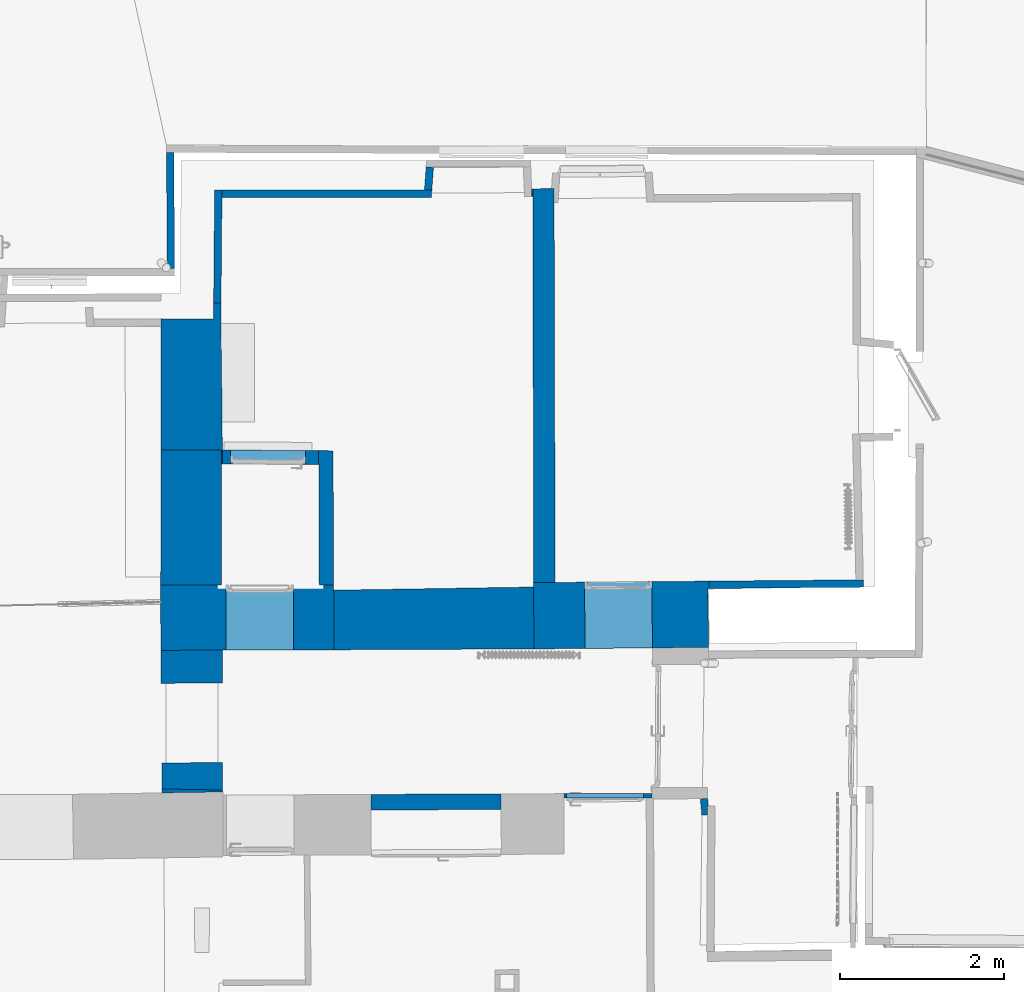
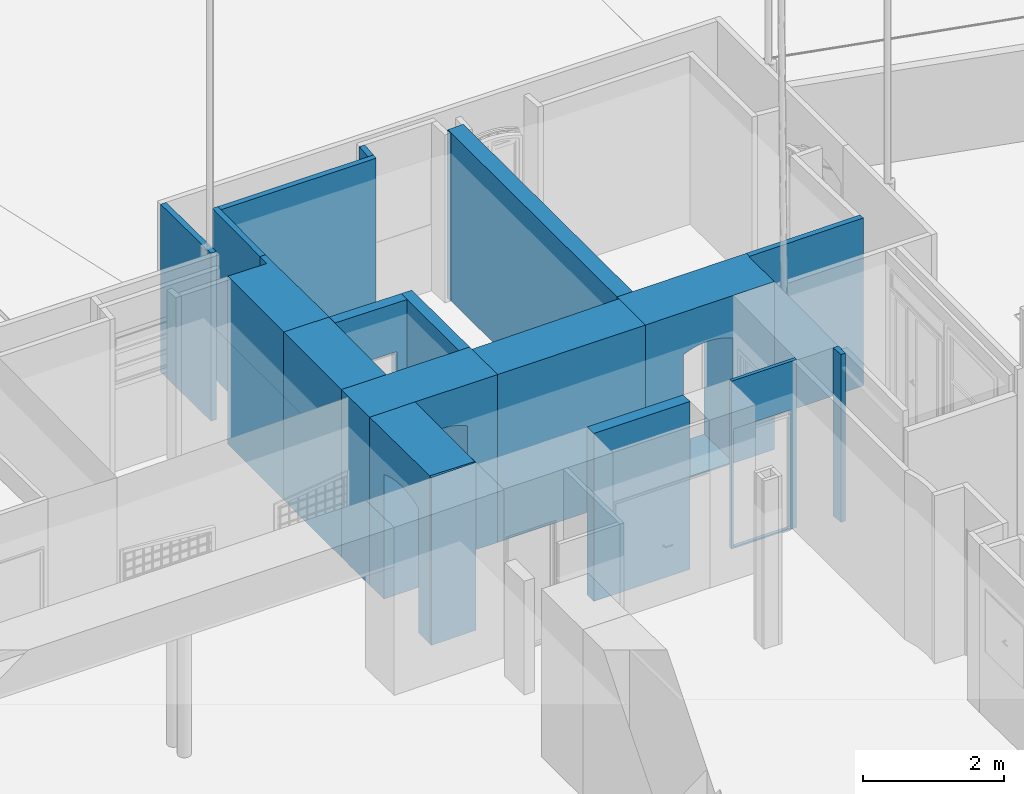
# One storey, part 28 of 133: 19 walls, 5 openings.
"""IFC2X3 building model written with IfcOpenShell, lengths in centimetres."""

from ifc_helpers import new_model, entity, si_unit, converted_unit, point, direction, frame, frame_2d, origin, origin_with_axes, place, context, subcontext, project, spatial, polyline, circle_curve, trimmed, segment, composite_curve, outline, extrude, shape, material, layer, layer_set, layer_usage, type_object, element, save


model = new_model("IFC2X3")

# Units and contexts
model_context = context("Model", 3, precision=0.0001, world=origin(), true_north=direction((0.225632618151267, 0.974212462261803, 0.0)))
body_context = subcontext(model_context, "Body", "Model", "MODEL_VIEW")
footprint_context = subcontext(model_context, "FootPrint", "Model", "MODEL_VIEW")
profile_context = subcontext(model_context, "Profile", "Model", "MODEL_VIEW")
ifc_project = project(units=[si_unit("LENGTHUNIT", "METRE", prefix="CENTI"), si_unit("AREAUNIT", "SQUARE_METRE", prefix="CENTI"), si_unit("VOLUMEUNIT", "CUBIC_METRE", prefix="CENTI"), converted_unit("PLANEANGLEUNIT", "DEGREE", entity("IfcRatioMeasure", 0.0174532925), si_unit("PLANEANGLEUNIT", "RADIAN"), dimensions=[0, 0, 0, 0, 0, 0, 0])], contexts=[model_context])

# Site, building, storey
site_placement = place(None, origin_with_axes())
site = spatial("IfcSite", under=ifc_project, at=site_placement, Name="Default Site", CompositionType="ELEMENT")
building_placement = place(site_placement, origin_with_axes())
building = spatial("IfcBuilding", under=site, at=building_placement, Name="Default Building", CompositionType="ELEMENT")
storey_placement = place(building_placement, frame((0.0, 0.0, -291.400371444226), z_axis=(0.0, 0.0, 1.0), x_axis=(1.0, 0.0, 0.0)))
storey = spatial("IfcBuildingStorey", under=building, at=storey_placement, Name="Rez-de-Jardin", CompositionType="ELEMENT", Elevation=-291.400371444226)

# Walls
ifc_material = material(Name="<aucun>")
ifc_layer_1 = layer(ifc_material, 26.0)
ifc_layer_set_1 = layer_set([ifc_layer_1], Name="default")
ifc_layer_usage_1 = layer_usage(ifc_layer_set_1, "AXIS2", "POSITIVE", -13.0)
wall_type_1 = type_object("IfcWallType", Name="default 260", PredefinedType="NOTDEFINED", material=ifc_layer_set_1)
wall_1_placement = place(storey_placement, frame((697.253894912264, 230.501718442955, -1.94511073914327e-11), z_axis=(0.0, 0.0, 1.0), x_axis=(-0.00247484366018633, 0.99999693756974, 0.0)))
element("IfcWallStandardCase", 1, at=wall_1_placement, inside=storey, type_object=wall_type_1, material=ifc_layer_usage_1, Name="Enveloppe 57016", context=body_context, shape_type="SweptSolid", body=[
    extrude(outline(polyline([(484.37706935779, 12.9999999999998), (5.44558083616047, 13.0000000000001), (5.60077992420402, -12.9999999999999), (485.040371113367, -13.0000000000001), (485.239297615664, -9.89141458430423), (484.37706935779, 12.9999999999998)])), frame((0.0, 0.0, 1.33226762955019e-13), z_axis=(0.0, 0.0, 1.0), x_axis=(1.0, 0.0, 0.0)), (0.0, 0.0, 1.0), 291.413221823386),
])
ifc_layer_2 = layer(ifc_material, 9.0)
ifc_layer_set_2 = layer_set([ifc_layer_2], Name="default")
ifc_layer_usage_2 = layer_usage(ifc_layer_set_2, "AXIS2", "POSITIVE", -4.5)
wall_type_2 = type_object("IfcWallType", Name="default 90", PredefinedType="NOTDEFINED", material=ifc_layer_set_2)
wall_2_placement = place(storey_placement, frame((672.846193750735, 709.931671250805, -1.94511073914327e-11), z_axis=(0.0, 0.0, 1.0), x_axis=(0.999195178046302, 0.0401122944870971, 0.0)))
element("IfcWallStandardCase", 2, at=wall_2_placement, inside=storey, type_object=wall_type_2, material=ifc_layer_usage_2, Name="Enveloppe 2023371", context=body_context, shape_type="SweptSolid", body=[
    extrude(outline(polyline([(9.00000000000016, 4.49999999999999), (9.00000000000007, -4.4999999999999), (10.0588631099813, -4.49999999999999), (10.397857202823, 4.49999999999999), (9.00000000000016, 4.49999999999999)])), frame((0.0, 0.0, 1.33226762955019e-13), z_axis=(0.0, 0.0, 1.0), x_axis=(1.0, 0.0, 0.0)), (0.0, 0.0, 1.0), 291.413221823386),
])
ifc_layer_usage_3 = layer_usage(ifc_layer_set_2, "AXIS2", "POSITIVE", -4.5)
wall_3_placement = place(storey_placement, frame((893.212596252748, -46.8542375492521, -1.94511073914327e-11), z_axis=(0.0, 0.0, 1.0), x_axis=(-0.0903162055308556, 0.995913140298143, 0.0)))
element("IfcWallStandardCase", 3, at=wall_3_placement, inside=storey, type_object=wall_type_2, material=ifc_layer_usage_3, Name="Enveloppe 596726", context=body_context, shape_type="SweptSolid", body=[
    extrude(outline(polyline([(19.9999999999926, 4.49999999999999), (0.0, 4.50000000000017), (4.44089209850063e-14, -2.56225293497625), (10.3697661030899, -3.56695212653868), (10.3697661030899, -4.49999999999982), (19.9999999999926, -4.49999999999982), (19.9999999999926, 4.49999999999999)])), frame((0.0, 0.0, 8.88178419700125e-14), z_axis=(0.0, 0.0, 1.0), x_axis=(1.0, 0.0, 0.0)), (0.0, 0.0, 1.0), 291.413221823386),
])
ifc_layer_usage_4 = layer_usage(ifc_layer_set_2, "AXIS2", "POSITIVE", -4.5)
wall_4_placement = place(storey_placement, frame((555.168205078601, 705.308318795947, -1.94511073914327e-11), z_axis=(0.0, 0.0, 1.0), x_axis=(0.0715289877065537, 0.997438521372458, 0.0)))
element("IfcWallStandardCase", 4, at=wall_4_placement, inside=storey, type_object=wall_type_2, material=ifc_layer_usage_4, Name="Enveloppe 588990", context=body_context, shape_type="SweptSolid", body=[
    extrude(outline(polyline([(8.08633742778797, 4.49999999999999), (8.73999473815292, -4.4999999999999), (36.378736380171, -4.4999999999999), (36.3787363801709, 4.50000000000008), (8.08633742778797, 4.49999999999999)])), frame((0.0, 0.0, 4.44089209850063e-14), z_axis=(0.0, 0.0, 1.0), x_axis=(1.0, 0.0, 0.0)), (0.0, 0.0, 1.0), 291.413221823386),
])
ifc_layer_usage_5 = layer_usage(ifc_layer_set_2, "AXIS2", "POSITIVE", -4.5)
wall_5_placement = place(storey_placement, frame((862.958917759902, 232.924078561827, -1.94511073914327e-11), z_axis=(0.0, 0.0, 1.0), x_axis=(0.999964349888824, 0.00844387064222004, 0.0)))
element("IfcWallStandardCase", 5, at=wall_5_placement, inside=storey, type_object=wall_type_2, material=ifc_layer_usage_5, Name="Enveloppe 76172", context=body_context, shape_type="SweptSolid", body=[
    extrude(outline(polyline([(34.592384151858, 4.50000000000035), (34.5923841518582, -4.49999999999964), (222.47935730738, -4.49999999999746), (222.353623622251, 4.50000000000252), (34.592384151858, 4.50000000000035)])), frame((0.0, 0.0, 1.33226762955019e-13), z_axis=(0.0, 0.0, 1.0), x_axis=(1.0, 0.0, 0.0)), (0.0, 0.0, 1.0), 291.413221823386),
])
ifc_layer_usage_6 = layer_usage(ifc_layer_set_2, "AXIS2", "POSITIVE", -4.5)
wall_6_placement = place(storey_placement, frame((299.046841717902, 560.979283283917, -1.94511073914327e-11), z_axis=(0.0, 0.0, 1.0), x_axis=(0.0087206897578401, 0.999961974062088, 0.0)))
element("IfcWallStandardCase", 6, at=wall_6_placement, inside=storey, type_object=wall_type_2, material=ifc_layer_usage_6, Name="Enveloppe 55753", context=body_context, shape_type="SweptSolid", body=[
    extrude(outline(polyline([(15.2268606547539, 4.49999999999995), (15.2268606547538, -4.49999999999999), (152.53708963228, -4.50000000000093), (152.450399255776, 4.49999999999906), (15.2268606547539, 4.49999999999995)])), frame((0.0, 0.0, 8.88178419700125e-14), z_axis=(0.0, 0.0, 1.0), x_axis=(1.0, 0.0, 0.0)), (0.0, 0.0, 1.0), 291.413221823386),
])
ifc_layer_usage_7 = layer_usage(ifc_layer_set_2, "AXIS2", "POSITIVE", -4.5)
wall_7_placement = place(storey_placement, frame((304.733526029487, 708.971196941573, -1.94511073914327e-11), z_axis=(0.0, 0.0, 1.0), x_axis=(0.999999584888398, 0.000911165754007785, 0.0)))
element("IfcWallStandardCase", 7, at=wall_7_placement, inside=storey, type_object=wall_type_2, material=ifc_layer_usage_7, Name="Enveloppe 57136", context=body_context, shape_type="SweptSolid", body=[
    extrude(outline(polyline([(0.060783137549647, -4.50000000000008), (254.898864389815, -4.50000000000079), (255.55252170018, 4.4999999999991), (0.147473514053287, 4.50000000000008), (0.060783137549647, -4.50000000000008)])), frame((0.0, 0.0, 1.33226762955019e-13), z_axis=(0.0, 0.0, 1.0), x_axis=(1.0, 0.0, 0.0)), (0.0, 0.0, 1.0), 291.413221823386),
])

# Wall, opening
ifc_layer_3 = layer(ifc_material, 80.7)
ifc_layer_set_3 = layer_set([ifc_layer_3], Name="default")
ifc_layer_usage_8 = layer_usage(ifc_layer_set_3, "AXIS2", "POSITIVE", -40.35)
wall_type_3 = type_object("IfcWallType", Name="default 807", PredefinedType="NOTDEFINED", material=ifc_layer_set_3)
wall_8_placement = place(storey_placement, frame((684.099471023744, 195.562480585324, -1.94511073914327e-11), z_axis=(0.0, 0.0, 1.0), x_axis=(0.999964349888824, 0.00844387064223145, 0.0)))
wall_8 = element("IfcWallStandardCase", 8, at=wall_8_placement, inside=storey, type_object=wall_type_3, material=ifc_layer_usage_8, Name="Enveloppe 72492", context=body_context, shape_type="SweptSolid", body=[
    extrude(outline(polyline([(0.29543068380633, 34.9893603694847), (-2.47801779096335e-11, -40.3499999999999), (212.515457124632, -40.35), (212.428386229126, 31.3500000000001), (213.760931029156, 31.3500000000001), (213.760931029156, 40.35), (0.481714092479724, 40.35), (0.449722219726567, 34.9905052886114), (0.29543068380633, 34.9893603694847)])), frame((0.0, 0.0, 1.33226762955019e-13), z_axis=(0.0, 0.0, 1.0), x_axis=(1.0, 0.0, 0.0)), (0.0, 0.0, 1.0), 291.413221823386),
])
opening_1_placement = place(wall_8_placement, frame((62.278238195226, -2.8421709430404e-14, 2.51091569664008), z_axis=(0.0, 0.0, 1.0), x_axis=(-1.0, -2.60208521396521e-17, 0.0)))
cartesian_point_1 = entity("IfcCartesianPoint", [0.0, 0.0, 215.0])
cartesian_point_2 = entity("IfcCartesianPoint", [-82.0000000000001, 0.0, 215.0])
cartesian_point_3 = entity("IfcCartesianPoint", [-81.9999999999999, -40.35])
element("IfcOpeningElement", 9, at=opening_1_placement, cuts=wall_8, Name="4294966357_12", ObjectType="Opening", shapes=[
    shape(body_context, "Body", "SweptSolid", [extrude(outline(composite_curve([segment(polyline([(0.0, 215.0), (0.0, 4.44089209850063e-14), (81.9999999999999, 4.44089209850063e-14), (81.9999999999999, 215.0)]), True, "CONTINUOUS"), segment(trimmed(circle_curve(frame_2d((41.0, 127.800432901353), x_axis=(1.0, 0.0)), 96.3574828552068), [point((81.9999999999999, 215.0))], [point((0.0, 215.0))], True, "CARTESIAN"), True, "CONTINUOUS")], self_intersect=False)), frame((0.0, -50.35, 0.0), z_axis=(0.0, 1.0, 0.0), x_axis=(-1.0, 0.0, 0.0)), (0.0, 0.0, 1.0), 100.7)]),
    shape(profile_context, "Profile", "GeometricCurveSet", [entity("IfcGeometricCurveSet", [entity("IfcCompositeCurve", [entity("IfcCompositeCurveSegment", "CONTINUOUS", True, entity("IfcPolyline", [cartesian_point_1, entity("IfcCartesianPoint", [0.0, 0.0, 4.44089209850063e-14]), entity("IfcCartesianPoint", [-82.0000000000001, 0.0, 4.44089209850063e-14]), cartesian_point_2])), entity("IfcCompositeCurveSegment", "CONTINUOUS", True, entity("IfcTrimmedCurve", entity("IfcCircle", entity("IfcAxis2Placement3D", entity("IfcCartesianPoint", [-41.0, -2.22044604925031e-14, 127.800432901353]), entity("IfcDirection", [0.0, 1.0, 2.42461943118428e-15]), entity("IfcDirection", [1.0, 0.0, 0.0])), 96.3574828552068), [cartesian_point_2], [cartesian_point_1], True, "CARTESIAN"))], False)])]),
    shape(footprint_context, "FootPrint", "GeometricCurveSet", [entity("IfcGeometricCurveSet", [entity("IfcPolyline", [cartesian_point_3, entity("IfcCartesianPoint", [0.0, -40.35]), entity("IfcCartesianPoint", [0.0, 40.35]), entity("IfcCartesianPoint", [-81.9999999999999, 40.35]), cartesian_point_3])])]),
])

ifc_layer_4 = layer(ifc_material, 79.0)
ifc_layer_set_4 = layer_set([ifc_layer_4], Name="default")
ifc_layer_usage_9 = layer_usage(ifc_layer_set_4, "AXIS2", "POSITIVE", -39.5)
wall_type_4 = type_object("IfcWallType", Name="default 790", PredefinedType="NOTDEFINED", material=ifc_layer_set_4)
wall_9_placement = place(storey_placement, frame((304.077982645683, 193.512771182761, -1.94511073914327e-11), z_axis=(0.0, 0.0, 1.0), x_axis=(0.999999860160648, 0.000528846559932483, 0.0)))
wall_9 = element("IfcWallStandardCase", 10, at=wall_9_placement, inside=storey, type_object=wall_type_4, material=ifc_layer_usage_9, Name="Enveloppe 56246", context=body_context, shape_type="SweptSolid", body=[
    extrude(outline(polyline([(-73.9490099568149, 18.5998978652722), (-73.4977505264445, -40.0751215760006), (0.137138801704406, -39.5), (129.955871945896, -39.5), (137.087582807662, -39.4715171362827), (136.797708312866, 33.1072072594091), (136.697720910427, 33.1072601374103), (136.674604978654, 39.5), (-73.7381893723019, 39.5), (-73.7711906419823, 18.6037638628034), (-73.9490099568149, 18.5998978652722)])), frame((0.0, 0.0, 4.44089209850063e-14), z_axis=(0.0, 0.0, 1.0), x_axis=(1.0, 0.0, 0.0)), (0.0, 0.0, 1.0), 291.413221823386),
])
opening_2_placement = place(wall_9_placement, frame((5.54801804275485, 0.0, 0.601514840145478), z_axis=(0.0, 0.0, 1.0), x_axis=(-1.0, -1.00722381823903e-16, 0.0)))
cartesian_point_4 = entity("IfcCartesianPoint", [-4.44089209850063e-14, 0.0, 219.0])
cartesian_point_5 = entity("IfcCartesianPoint", [-82.0000000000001, 0.0, 219.0])
cartesian_point_6 = entity("IfcCartesianPoint", [-82.0000000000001, -39.5])
element("IfcOpeningElement", 11, at=opening_2_placement, cuts=wall_9, Name="4294966323_12", ObjectType="Opening", shapes=[
    shape(body_context, "Body", "SweptSolid", [extrude(outline(composite_curve([segment(polyline([(4.44089209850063e-14, 219.0), (0.0, 0.0), (82.0, 0.0), (82.0000000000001, 219.0)]), True, "CONTINUOUS"), segment(trimmed(circle_curve(frame_2d((41.0, 139.60319114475), x_axis=(1.0, 0.0)), 89.3580061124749), [point((82.0000000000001, 219.0))], [point((4.44089209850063e-14, 219.0))], True, "CARTESIAN"), True, "CONTINUOUS")], self_intersect=False)), frame((0.0, -49.5, 0.0), z_axis=(0.0, 1.0, 0.0), x_axis=(-1.0, 0.0, 0.0)), (0.0, 0.0, 1.0), 99.0)]),
    shape(profile_context, "Profile", "GeometricCurveSet", [entity("IfcGeometricCurveSet", [entity("IfcCompositeCurve", [entity("IfcCompositeCurveSegment", "CONTINUOUS", True, entity("IfcPolyline", [cartesian_point_4, entity("IfcCartesianPoint", [0.0, 0.0, 0.0]), entity("IfcCartesianPoint", [-82.0, 0.0, 0.0]), cartesian_point_5])), entity("IfcCompositeCurveSegment", "CONTINUOUS", True, entity("IfcTrimmedCurve", entity("IfcCircle", entity("IfcAxis2Placement3D", entity("IfcCartesianPoint", [-41.0000000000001, 2.22044604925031e-14, 139.60319114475]), entity("IfcDirection", [0.0, 1.0, -2.22909555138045e-15]), entity("IfcDirection", [1.0, 0.0, 0.0])), 89.3580061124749), [cartesian_point_5], [cartesian_point_4], True, "CARTESIAN"))], False)])]),
    shape(footprint_context, "FootPrint", "GeometricCurveSet", [entity("IfcGeometricCurveSet", [entity("IfcPolyline", [cartesian_point_6, entity("IfcCartesianPoint", [0.0, -39.5]), entity("IfcCartesianPoint", [0.0, 39.5]), entity("IfcCartesianPoint", [-82.0000000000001, 39.5]), cartesian_point_6])])]),
])

# Walls
ifc_layer_5 = layer(ifc_material, 74.0)
ifc_layer_set_5 = layer_set([ifc_layer_5], Name="default")
ifc_layer_usage_10 = layer_usage(ifc_layer_set_5, "AXIS2", "POSITIVE", -37.0)
wall_type_5 = type_object("IfcWallType", Name="default 740", PredefinedType="NOTDEFINED", material=ifc_layer_set_5)
wall_10_placement = place(storey_placement, frame((267.296941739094, 212.037099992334, -1.94511073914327e-11), z_axis=(0.0, 0.0, 1.0), x_axis=(0.00105044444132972, 0.999999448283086, 0.0)))
element("IfcWallStandardCase", 12, at=wall_10_placement, inside=storey, type_object=wall_type_5, material=ifc_layer_usage_10, Name="Enveloppe 55902", context=body_context, shape_type="SweptSolid", body=[
    extrude(outline(polyline([(20.8978145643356, 37.0000000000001), (21.014682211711, -36.9999999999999), (185.348942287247, -36.9999999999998), (185.348942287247, 37.0000000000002), (20.8978145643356, 37.0000000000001)])), frame((0.0, 0.0, 8.88178419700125e-14), z_axis=(0.0, 0.0, 1.0), x_axis=(1.0, 0.0, 0.0)), (0.0, 0.0, 1.0), 291.413221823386),
])
ifc_layer_6 = layer(ifc_material, 19.0)
ifc_layer_set_6 = layer_set([ifc_layer_6], Name="default")
ifc_layer_usage_11 = layer_usage(ifc_layer_set_6, "AXIS2", "POSITIVE", -9.5)
wall_type_6 = type_object("IfcWallType", Name="default 190", PredefinedType="NOTDEFINED", material=ifc_layer_set_6)
wall_11_placement = place(storey_placement, frame((486.176373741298, -31.2817365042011, -1.94511073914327e-11), z_axis=(0.0, 0.0, 1.0), x_axis=(0.999994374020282, 0.00335438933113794, 0.0)))
element("IfcWallStandardCase", 13, at=wall_11_placement, inside=storey, type_object=wall_type_6, material=ifc_layer_usage_11, Name="Enveloppe 67258", context=body_context, shape_type="SweptSolid", body=[
    extrude(outline(polyline([(0.0058995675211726, 9.45981393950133), (0.200717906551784, 9.460194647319), (0.200717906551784, -9.49999999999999), (158.315932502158, -9.49999999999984), (158.315932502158, 9.50000000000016), (0.00587359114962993, 9.50000000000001), (0.0058995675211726, 9.45981393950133)])), frame((0.0, 0.0, 8.88178419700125e-14), z_axis=(0.0, 0.0, 1.0), x_axis=(1.0, 0.0, 0.0)), (0.0, 0.0, 1.0), 291.413221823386),
])
ifc_layer_7 = layer(ifc_material, 73.0)
ifc_layer_set_7 = layer_set([ifc_layer_7], Name="default")
ifc_layer_usage_12 = layer_usage(ifc_layer_set_7, "AXIS2", "POSITIVE", -36.5)
wall_type_7 = type_object("IfcWallType", Name="default 730", PredefinedType="NOTDEFINED", material=ifc_layer_set_7)
wall_12_placement = place(storey_placement, frame((266.982963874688, 389.126245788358, -1.94511073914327e-11), z_axis=(0.0, 0.0, 1.0), x_axis=(0.00105044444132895, 0.999999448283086, 0.0)))
element("IfcWallStandardCase", 14, at=wall_12_placement, inside=storey, type_object=wall_type_7, material=ifc_layer_usage_12, Name="Enveloppe 55859", context=body_context, shape_type="SweptSolid", body=[
    extrude(outline(polyline([(8.26022401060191, 36.5000000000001), (8.26022401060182, -37.5), (-8.73465373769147, -37.5), (-8.74012676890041, -38.3519577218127), (8.26022401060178, -38.3519577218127), (171.852107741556, -36.5), (187.078520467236, -36.5), (187.14755299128, -27.5002647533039), (167.372689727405, -27.3485815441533), (167.862440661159, 36.4999999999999), (8.26022401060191, 36.5000000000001)])), frame((0.0, 0.0, 8.88178419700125e-14), z_axis=(0.0, 0.0, 1.0), x_axis=(1.0, 0.0, 0.0)), (0.0, 0.0, 1.0), 291.413221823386),
])

# Wall, opening
ifc_layer_8 = layer(ifc_material, 5.5)
ifc_layer_set_8 = layer_set([ifc_layer_8], Name="default")
ifc_layer_usage_13 = layer_usage(ifc_layer_set_8, "AXIS2", "POSITIVE", -2.75)
wall_type_8 = type_object("IfcWallType", Name="default 55", PredefinedType="NOTDEFINED", material=ifc_layer_set_8)
wall_13_placement = place(storey_placement, frame((720.840690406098, -23.7445386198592, -1.94511073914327e-11), z_axis=(0.0, 0.0, 1.0), x_axis=(0.999994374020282, 0.003354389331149, 0.0)))
wall_13 = element("IfcWallStandardCase", 15, at=wall_13_placement, inside=storey, type_object=wall_type_8, material=ifc_layer_usage_13, Name="Enveloppe 67416", context=body_context, shape_type="SweptSolid", body=[
    extrude(outline(polyline([(2.57571741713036e-12, 2.75), (2.48689957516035e-12, -2.75), (107.03970623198, -2.75000000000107), (107.09196240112, 2.74999999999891), (2.57571741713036e-12, 2.75)])), frame((0.0, 0.0, 8.88178419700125e-14), z_axis=(0.0, 0.0, 1.0), x_axis=(1.0, 0.0, 0.0)), (0.0, 0.0, 1.0), 291.413221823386),
])
opening_3_placement = place(wall_13_placement, frame((3.26053147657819, -3.19744231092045e-14, 2.51091569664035), z_axis=(0.0, 0.0, 1.0), x_axis=(-1.0, 1.00488194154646e-14, 0.0)))
cartesian_point_7 = entity("IfcCartesianPoint", [0.0, 0.0, 205.0])
cartesian_point_8 = entity("IfcCartesianPoint", [-93.7890714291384, -2.74999999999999])
element("IfcOpeningElement", 16, at=opening_3_placement, cuts=wall_13, Name="4294966356_11", ObjectType="Opening", shapes=[
    shape(body_context, "Body", "SweptSolid", [extrude(outline(polyline([(-8.88178419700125e-14, 205.0), (-8.88178419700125e-14, -4.44089209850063e-14), (93.7890714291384, -4.44089209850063e-14), (93.7890714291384, 205.0), (-8.88178419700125e-14, 205.0)])), frame((0.0, -12.75, 0.0), z_axis=(0.0, 1.0, 0.0), x_axis=(-1.0, 0.0, 0.0)), (0.0, 0.0, 1.0), 25.5)]),
    shape(profile_context, "Profile", "GeometricCurveSet", [entity("IfcGeometricCurveSet", [entity("IfcPolyline", [cartesian_point_7, entity("IfcCartesianPoint", [0.0, 0.0, -4.44089209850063e-14]), entity("IfcCartesianPoint", [-93.7890714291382, 5.55111512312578e-15, -4.44089209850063e-14]), entity("IfcCartesianPoint", [-93.7890714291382, 5.55111512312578e-15, 205.0]), cartesian_point_7])])]),
    shape(footprint_context, "FootPrint", "GeometricCurveSet", [entity("IfcGeometricCurveSet", [entity("IfcPolyline", [cartesian_point_8, entity("IfcCartesianPoint", [8.88178419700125e-14, -2.75]), entity("IfcCartesianPoint", [0.0, 2.75]), entity("IfcCartesianPoint", [-93.7890714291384, 2.75]), cartesian_point_8])])]),
])

# Walls
ifc_layer_9 = layer(ifc_material, 72.5)
ifc_layer_set_9 = layer_set([ifc_layer_9], Name="default")
ifc_layer_usage_14 = layer_usage(ifc_layer_set_9, "AXIS2", "POSITIVE", -36.25)
wall_type_9 = type_object("IfcWallType", Name="default 725", PredefinedType="NOTDEFINED", material=ifc_layer_set_9)
wall_14_placement = place(storey_placement, frame((433.890780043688, 190.331132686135, -1.94511073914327e-11), z_axis=(0.0, 0.0, 1.0), x_axis=(0.999989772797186, 0.00452264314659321, 0.0)))
element("IfcWallStandardCase", 17, at=wall_14_placement, inside=storey, type_object=wall_type_9, material=ifc_layer_usage_14, Name="Enveloppe 57679", context=body_context, shape_type="SweptSolid", body=[
    extrude(outline(polyline([(7.13176773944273, 36.3308896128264), (7.13176773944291, -36.2499999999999), (250.388016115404, -36.2499999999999), (250.388016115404, 39.0899396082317), (7.13176773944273, 36.3308896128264)])), frame((0.0, 0.0, 8.88178419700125e-14), z_axis=(0.0, 0.0, 1.0), x_axis=(1.0, 0.0, 0.0)), (0.0, 0.0, 1.0), 291.413221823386),
])
ifc_layer_usage_15 = layer_usage(ifc_layer_set_9, "AXIS2", "POSITIVE", -36.25)
wall_15_placement = place(storey_placement, frame((268.142588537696, -20.6882437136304, -1.94511073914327e-11), z_axis=(0.0, 0.0, 1.0), x_axis=(0.018031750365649, 0.999837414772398, 0.0)))
element("IfcWallStandardCase", 18, at=wall_15_placement, inside=storey, type_object=wall_type_9, material=ifc_layer_usage_15, Name="Enveloppe 54039", context=body_context, shape_type="SweptSolid", body=[
    extrude(outline(polyline([(2.4980018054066e-14, 36.2500000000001), (2.48577592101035, -37.61720992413), (22.3949726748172, -36.815846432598), (4.89618026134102, -37.2753346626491), (4.89618026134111, 36.2500000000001), (2.4980018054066e-14, 36.2500000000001)])), frame((0.0, 0.0, 4.44089209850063e-14), z_axis=(0.0, 0.0, 1.0), x_axis=(1.0, 0.0, 0.0)), (0.0, 0.0, 1.0), 291.413221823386),
])

# Wall, opening
ifc_layer_10 = layer(ifc_material, 73.5)
ifc_layer_set_10 = layer_set([ifc_layer_10], Name="default")
ifc_layer_usage_16 = layer_usage(ifc_layer_set_10, "AXIS2", "POSITIVE", -36.75)
wall_type_10 = type_object("IfcWallType", Name="default 735", PredefinedType="NOTDEFINED", material=ifc_layer_set_10)
wall_16_placement = place(storey_placement, frame((268.47623828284, 16.7076837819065, -1.94511073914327e-11), z_axis=(0.0, 0.0, 1.0), x_axis=(-0.00821942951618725, 0.999966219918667, 0.0)))
wall_16 = element("IfcWallStandardCase", 19, at=wall_16_placement, inside=storey, type_object=wall_type_10, material=ifc_layer_usage_16, Name="Enveloppe 70184", context=body_context, shape_type="SweptSolid", body=[
    extrude(outline(polyline([(136.997794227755, 36.75), (-31.5458939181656, 36.75), (-33.475877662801, -36.7500000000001), (-2.77555756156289e-15, -36.7500000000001), (136.997794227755, -38.032409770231), (136.997794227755, 36.75)])), frame((0.0, 0.0, 8.88178419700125e-14), z_axis=(0.0, 0.0, 1.0), x_axis=(1.0, 0.0, 0.0)), (0.0, 0.0, 1.0), 291.413221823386),
])
opening_4_placement = place(wall_16_placement, frame((-1.06581410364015e-14, 0.0, -4.39648317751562e-14), z_axis=(0.0, 0.0, 1.0), x_axis=(1.0, -3.12250225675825e-17, 0.0)))
cartesian_point_9 = entity("IfcCartesianPoint", [1.38777878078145e-14, 0.0, 216.0])
cartesian_point_10 = entity("IfcCartesianPoint", [96.8997451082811, 0.0, 216.0])
cartesian_point_11 = entity("IfcCartesianPoint", [96.8997451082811, 36.75])
element("IfcOpeningElement", 20, at=opening_4_placement, cuts=wall_16, Name="Baie 78034", ObjectType="Opening", shapes=[
    shape(body_context, "Body", "SweptSolid", [extrude(outline(composite_curve([segment(polyline([(1.38777878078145e-14, 216.0), (-2.77555756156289e-15, 4.44089209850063e-14), (96.8997451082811, 4.44089209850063e-14), (96.8997451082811, 216.0)]), True, "CONTINUOUS"), segment(trimmed(circle_curve(frame_2d((48.4498725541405, 105.607074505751), x_axis=(1.0, 0.0)), 120.556991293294), [point((96.8997451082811, 216.0))], [point((1.38777878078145e-14, 216.0))], True, "CARTESIAN"), True, "CONTINUOUS")], self_intersect=False)), frame((0.0, 48.0376566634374, 0.0), z_axis=(0.0, -1.0, 0.0), x_axis=(1.0, 0.0, 0.0)), (0.0, 0.0, 1.0), 94.7876566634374)]),
    shape(profile_context, "Profile", "GeometricCurveSet", [entity("IfcGeometricCurveSet", [entity("IfcCompositeCurve", [entity("IfcCompositeCurveSegment", "CONTINUOUS", True, entity("IfcPolyline", [cartesian_point_9, entity("IfcCartesianPoint", [0.0, 0.0, 4.44089209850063e-14]), entity("IfcCartesianPoint", [96.8997451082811, 0.0, 4.44089209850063e-14]), cartesian_point_10])), entity("IfcCompositeCurveSegment", "CONTINUOUS", True, entity("IfcTrimmedCurve", entity("IfcCircle", entity("IfcAxis2Placement3D", entity("IfcCartesianPoint", [48.4498725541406, 0.0, 105.607074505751]), entity("IfcDirection", [0.0, -1.0, 0.0]), entity("IfcDirection", [-1.0, 0.0, 0.0])), 120.556991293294), [cartesian_point_10], [cartesian_point_9], True, "CARTESIAN"))], False)])]),
    shape(footprint_context, "FootPrint", "GeometricCurveSet", [entity("IfcGeometricCurveSet", [entity("IfcPolyline", [cartesian_point_11, entity("IfcCartesianPoint", [8.32667268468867e-15, 36.75]), entity("IfcCartesianPoint", [1.11022302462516e-14, -36.75]), entity("IfcCartesianPoint", [96.8997451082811, -37.657059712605]), cartesian_point_11])])]),
])

ifc_layer_11 = layer(ifc_material, 17.0)
ifc_layer_set_11 = layer_set([ifc_layer_11], Name="default")
ifc_layer_usage_17 = layer_usage(ifc_layer_set_11, "AXIS2", "POSITIVE", -8.5)
wall_type_11 = type_object("IfcWallType", Name="default 170", PredefinedType="NOTDEFINED", material=ifc_layer_set_11)
wall_17_placement = place(storey_placement, frame((441.538259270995, 387.827945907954, -1.94511073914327e-11), z_axis=(0.0, 0.0, 1.0), x_axis=(-0.999972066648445, 0.00747435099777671, 0.0)))
wall_17 = element("IfcWallStandardCase", 21, at=wall_17_placement, inside=storey, type_object=wall_type_11, material=ifc_layer_usage_17, Name="Enveloppe 54093", context=body_context, shape_type="SweptSolid", body=[
    extrude(outline(polyline([(136.152811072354, 8.50000000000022), (18.8504606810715, 8.50000000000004), (19.0479962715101, -8.49999999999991), (136.262020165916, -8.49999999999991), (136.152811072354, 8.50000000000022)])), frame((0.0, 0.0, 8.88178419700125e-14), z_axis=(0.0, 0.0, 1.0), x_axis=(1.0, 0.0, 0.0)), (0.0, 0.0, 1.0), 291.413221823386),
])
opening_5_placement = place(wall_17_placement, frame((35.0035589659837, 0.0, 0.601514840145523), z_axis=(0.0, 0.0, 1.0), x_axis=(1.0, 7.27716498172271e-16, 0.0)))
cartesian_point_12 = entity("IfcCartesianPoint", [0.0, 0.0, 206.0])
cartesian_point_13 = entity("IfcCartesianPoint", [91.1022011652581, 8.50000000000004])
element("IfcOpeningElement", 22, at=opening_5_placement, cuts=wall_17, Name="4294966322_11", ObjectType="Opening", shapes=[
    shape(body_context, "Body", "SweptSolid", [extrude(outline(polyline([(0.0, 206.0), (0.0, 4.44089209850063e-14), (91.1022011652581, 4.44089209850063e-14), (91.1022011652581, 206.0), (0.0, 206.0)])), frame((0.0, 18.5, 0.0), z_axis=(0.0, -1.0, 0.0), x_axis=(1.0, 0.0, 0.0)), (0.0, 0.0, 1.0), 37.0)]),
    shape(profile_context, "Profile", "GeometricCurveSet", [entity("IfcGeometricCurveSet", [entity("IfcPolyline", [cartesian_point_12, entity("IfcCartesianPoint", [0.0, 0.0, 4.44089209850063e-14]), entity("IfcCartesianPoint", [91.1022011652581, -4.44089209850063e-14, 4.44089209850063e-14]), entity("IfcCartesianPoint", [91.1022011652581, -4.44089209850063e-14, 206.0]), cartesian_point_12])])]),
    shape(footprint_context, "FootPrint", "GeometricCurveSet", [entity("IfcGeometricCurveSet", [entity("IfcPolyline", [cartesian_point_13, entity("IfcCartesianPoint", [0.0, 8.5]), entity("IfcCartesianPoint", [0.0, -8.5]), entity("IfcCartesianPoint", [91.1022011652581, -8.50000000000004]), cartesian_point_13])])]),
])

# Walls
ifc_layer_12 = layer(ifc_material, 17.5)
ifc_layer_set_12 = layer_set([ifc_layer_12], Name="default")
ifc_layer_usage_18 = layer_usage(ifc_layer_set_12, "AXIS2", "POSITIVE", -8.75)
wall_type_12 = type_object("IfcWallType", Name="default 175", PredefinedType="NOTDEFINED", material=ifc_layer_set_12)
wall_18_placement = place(storey_placement, frame((432.007946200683, 226.72957468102, -1.94511073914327e-11), z_axis=(0.0, 0.0, 1.0), x_axis=(-0.00414478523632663, 0.999991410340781, 0.0)))
element("IfcWallStandardCase", 23, at=wall_18_placement, inside=storey, type_object=wall_type_12, material=ifc_layer_usage_18, Name="Enveloppe 54122", context=body_context, shape_type="SweptSolid", body=[
    extrude(outline(polyline([(169.778230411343, 8.75000000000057), (6.38253769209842, 8.75000000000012), (6.31925828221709, -8.75000000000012), (169.574884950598, -8.7499999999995), (169.778230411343, 8.75000000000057)])), frame((0.0, 0.0, 1.77635683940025e-13), z_axis=(0.0, 0.0, 1.0), x_axis=(1.0, 0.0, 0.0)), (0.0, 0.0, 1.0), 291.413221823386),
])
ifc_layer_usage_19 = layer_usage(ifc_layer_set_2, "AXIS2", "POSITIVE", -4.5)
wall_type_13 = type_object("IfcWallType", Name="default 90", PredefinedType="NOTDEFINED", material=ifc_layer_set_2)
wall_19_placement = place(storey_placement, frame((242.881787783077, 608.992377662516, -1.94511073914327e-11), z_axis=(0.0, 0.0, 1.0), x_axis=(-0.00735546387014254, 0.999972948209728, 0.0)))
element("IfcWallStandardCase", 24, at=wall_19_placement, inside=storey, type_object=wall_type_13, material=ifc_layer_usage_19, Name="Enveloppe 362512", context=body_context, shape_type="SweptSolid", body=[
    extrude(outline(polyline([(150.324512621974, 4.49999999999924), (8.9994382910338, 4.49999999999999), (8.9112854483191, -4.49999999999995), (150.224512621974, -4.50000000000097), (150.324512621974, 4.49999999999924)])), frame((0.0, 0.0, 8.88178419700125e-14), z_axis=(0.0, 0.0, 1.0), x_axis=(1.0, 0.0, 0.0)), (0.0, 0.0, 1.0), 291.413221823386),
])

save(model, "model.ifc")
